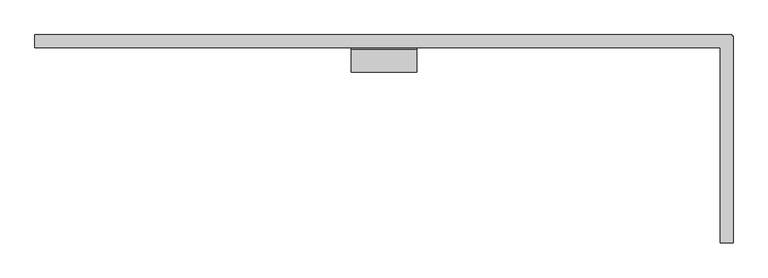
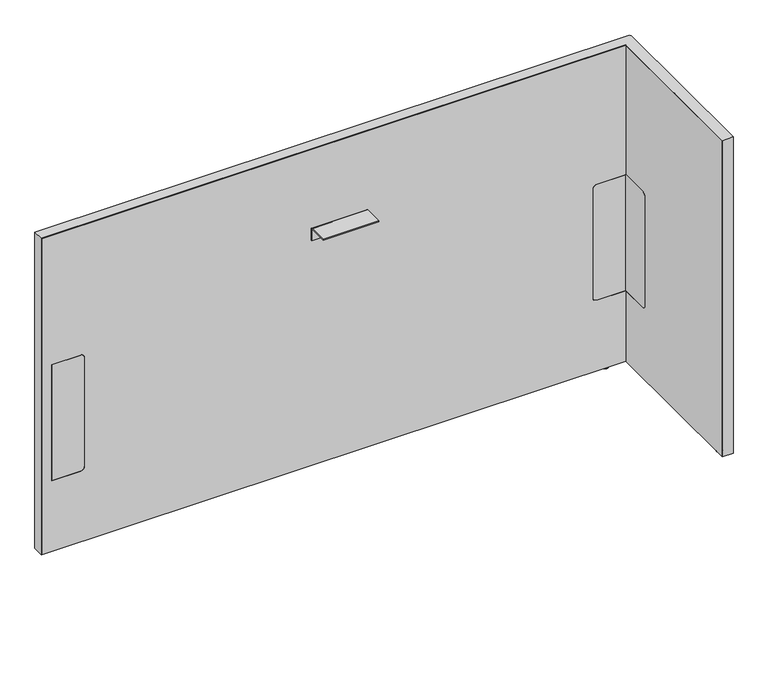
"""IFC4 building model written with IfcOpenShell, lengths in millimetres: furniture geometry, Steelcase - Answer Solution - Boundary Screen - L Return - Single Sided : 36H x 63W."""

from ifc_helpers import new_model, si_unit, point, frame, frame_2d, origin, place, context, project, spatial, polyline, circle_curve, ellipse_curve, trimmed, segment, composite_curve, outline, extrude, faceted_brep, source, transform, mapped, element, save
from ifc_brep_helpers import plane_surface, cylinder_surface, revolved_surface, advanced_brep


def furniture_2c3dba28(model_context):
    return source(origin(), model_context, "Body", "SolidModel", [
        extrude(outline(composite_curve([segment(polyline([(-109.3501471, 549.6162029), (-29.0550397, 549.6162029), (-29.0550397, 213.7762137), (-109.3501471, 213.7762137)]), True, "CONTINUOUS"), segment(trimmed(circle_curve(frame_2d((-109.3501471, 223.9362137)), 10.16), [point((-109.3501471, 213.7762137))], [point((-119.5101471, 223.9362137))], False, "CARTESIAN"), True, "CONTINUOUS"), segment(polyline([(-119.5101471, 223.9362137), (-119.5101471, 539.4562029)]), True, "CONTINUOUS"), segment(trimmed(circle_curve(frame_2d((-109.3501471, 539.4562029)), 10.16), [point((-119.5101471, 539.4562029))], [point((-109.3501471, 549.6162029))], False, "CARTESIAN"), True, "CONTINUOUS")], self_intersect=False)), frame((1830.0191891, 0.0, 0.0), z_axis=(1.0, 0.0, 0.0), x_axis=(0.0, 1.0, 0.0)), (0.0, 0.0, 1.0), 0.6401544),
        advanced_brep(
        [(1844.8672074, -448.0136072, 0.0), (1851.8216144, -448.0136072, 0.0), (1837.9128003, -448.0136072, 0.0), (1853.2762685, -448.0136072, 1.2700001), (1836.4581463, -448.0136072, 1.2700001), (1853.2762685, -448.0136072, 2.9673238), (1836.4581463, -448.0136072, 2.9673238), (1854.2427877, -448.0136072, 2.9673238), (1835.491627, -448.0136072, 2.9673238), (1854.2427877, -448.0136072, 9.9059849), (1835.491627, -448.0136072, 9.9059849), (1844.8672074, -448.0136072, 9.9059849)],
        [
            (0, 1),
            (1, 2, circle_curve(frame((1844.8672074, -448.0136072, 0.0), z_axis=(0.0, 0.0, -1.0), x_axis=(1.0, 0.0, 0.0)), 6.9544071)),
            (2, 0),
            (2, 1, circle_curve(frame((1844.8672074, -448.0136072, 0.0), z_axis=(0.0, 0.0, -1.0), x_axis=(1.0, 0.0, 0.0)), 6.9544071)),
            (1, 3, circle_curve(frame((1851.9945484, -448.0136072, 1.2700001), z_axis=(0.0, -1.0, 0.0), x_axis=(0.0, 0.0, 1.0)), 1.2817201)),
            (3, 4, circle_curve(frame((1844.8672074, -448.0136072, 1.2700001), z_axis=(0.0, 0.0, -1.0), x_axis=(1.0, 0.0, 0.0)), 8.4090611)),
            (4, 2, circle_curve(frame((1837.7398663, -448.0136072, 1.2700001), z_axis=(0.0, -1.0, 0.0), x_axis=(0.0, 0.0, 1.0)), 1.2817201)),
            (4, 3, circle_curve(frame((1844.8672074, -448.0136072, 1.2700001), z_axis=(0.0, 0.0, -1.0), x_axis=(1.0, 0.0, 0.0)), 8.4090611)),
            (3, 5),
            (5, 6, circle_curve(frame((1844.8672074, -448.0136072, 2.9673238), z_axis=(0.0, 0.0, -1.0), x_axis=(1.0, 0.0, 0.0)), 8.4090611)),
            (6, 4),
            (6, 5, circle_curve(frame((1844.8672074, -448.0136072, 2.9673238), z_axis=(0.0, 0.0, -1.0), x_axis=(1.0, 0.0, 0.0)), 8.4090611)),
            (5, 7),
            (7, 8, circle_curve(frame((1844.8672074, -448.0136072, 2.9673238), z_axis=(0.0, 0.0, -1.0), x_axis=(1.0, 0.0, 0.0)), 9.3755804)),
            (8, 6),
            (8, 7, circle_curve(frame((1844.8672074, -448.0136072, 2.9673238), z_axis=(0.0, 0.0, -1.0), x_axis=(1.0, 0.0, 0.0)), 9.3755804)),
            (7, 9),
            (9, 10, circle_curve(frame((1844.8672074, -448.0136072, 9.9059849), z_axis=(0.0, 0.0, -1.0), x_axis=(1.0, 0.0, 0.0)), 9.3755804)),
            (10, 8),
            (10, 9, circle_curve(frame((1844.8672074, -448.0136072, 9.9059849), z_axis=(0.0, 0.0, -1.0), x_axis=(1.0, 0.0, 0.0)), 9.3755804)),
            (9, 11),
            (11, 10),
        ],
        [
            plane_surface(frame((1844.8672074, -448.0136072, 0.0), z_axis=(0.0, 0.0, -1.0), x_axis=(1.0, 0.0, 0.0))),
            revolved_surface(trimmed(ellipse_curve(frame((1851.9945484, -448.0136072, 1.2700001), z_axis=(0.0, 1.0, 0.0), x_axis=(0.0, 0.0, 1.0)), 1.2817201, 1.2817201), [point((1853.2762685, -448.0136072, 1.2700001))], [point((1851.8216144, -448.0136072, 0.0))], True, "CARTESIAN"), (1844.8672074, -448.0136072, 9.9059849), (0.0, 0.0, -1.0)),
            cylinder_surface(frame((1844.8672074, -448.0136072, 9.9059849), z_axis=(0.0, 0.0, -1.0), x_axis=(1.0, 0.0, 0.0)), 8.4090611),
            plane_surface(frame((1844.8672074, -448.0136072, 2.9673238), z_axis=(0.0, 0.0, -1.0), x_axis=(1.0, 0.0, 0.0))),
            cylinder_surface(frame((1844.8672074, -448.0136072, 9.9059849), z_axis=(0.0, 0.0, -1.0), x_axis=(1.0, 0.0, 0.0)), 9.3755804),
            plane_surface(frame((1844.8672074, -448.0136072, 9.9059849), z_axis=(0.0, 0.0, 1.0), x_axis=(1.0, 0.0, 0.0))),
        ],
        [
            (0, [[1, 2, 3]]),
            (0, [[-3, 4, -1]]),
            (1, [[-2, 5, 6, 7]]),
            (1, [[-4, -7, 8, -5]]),
            (2, [[-6, 9, 10, 11]]),
            (2, [[-8, -11, 12, -9]]),
            (3, [[-10, 13, 14, 15]]),
            (3, [[-12, -15, 16, -13]]),
            (4, [[-14, 17, 18, 19]]),
            (4, [[-16, -19, 20, -17]]),
            (5, [[-18, 21, 22]]),
            (5, [[-20, -22, -21]]),
        ],
    ),
        faceted_brep([(1856.4531179, 0.0, 925.322), (1856.4531179, 0.0, 9.9059849), (1855.4621491, 0.0, 9.9059849), (1855.4621491, 0.0, 924.342118), (230.8097779, 0.0, 924.342118), (230.8097779, 0.0, 9.9059849), (229.8191891, 0.0, 9.9059849), (229.8191891, 0.0, 925.322), (229.8191891, -29.6898332, 925.322), (229.8191891, -29.6898332, 9.9059849), (230.8097779, -29.6898332, 9.9059849), (230.8097779, -29.6898332, 924.342118), (1830.0191891, -29.6898332, 924.342118), (1830.0191891, -29.6898332, 925.322), (1855.4621491, -29.6898332, 924.342118), (1855.4621491, -29.6898332, 9.9059849), (1856.4531179, -29.6898332, 9.9059849), (1856.4531179, -29.6898332, 924.342118), (1856.4531179, -3.2625916, 925.322), (1856.4531179, -3.2625916, 9.9059849), (1856.4531179, -4.252647, 9.9059849), (1856.4531179, -4.252647, 924.342118), (1859.7152256, -3.2625916, 9.9059849), (1859.7152256, -4.252647, 9.9059849), (1855.4621491, -4.252647, 9.9059849), (1830.0191891, -4.252647, 9.9059849), (1830.0191891, -3.2625916, 9.9059849), (1855.4621491, -3.2625916, 9.9059849), (1830.0191891, -486.8898332, 925.322), (1859.7152256, -486.8898332, 925.322), (1859.7152256, -3.2625916, 925.322), (1855.4621491, -3.2625916, 924.342118), (1855.4621491, -4.252647, 924.342118), (1830.0191891, -3.2625916, 924.342118), (1830.0191891, -4.252647, 924.342118), (1859.7152256, -4.252647, 924.342118), (1859.7152256, -485.899196, 924.342118), (1830.0191891, -485.899196, 924.342118), (1830.0191891, -485.899196, 9.9059849), (1830.0191891, -486.8898332, 9.9059849), (1859.7152256, -486.8898332, 9.9059849), (1859.7152256, -485.899196, 9.9059849)], [[[0, 1, 2, 3, 4, 5, 6, 7]], [[8, 9, 10, 11, 12, 13]], [[14, 15, 16, 17]], [[1, 0, 18, 19]], [[17, 16, 20, 21]], [[2, 1, 19, 22, 23, 20, 16, 15, 24, 25, 26, 27]], [[7, 6, 9, 8]], [[0, 7, 8, 13, 28, 29, 30, 18]], [[3, 2, 27, 31]], [[15, 14, 32, 24]], [[4, 3, 31, 33, 34, 32, 14, 17, 21, 35, 36, 37, 12, 11]], [[5, 4, 11, 10]], [[6, 5, 10, 9]], [[26, 25, 34, 33]], [[37, 38, 39, 28, 13, 12]], [[29, 40, 41, 36, 35, 23, 22, 30]], [[27, 26, 33, 31]], [[30, 22, 19, 18]], [[34, 25, 24, 32]], [[23, 35, 21, 20]], [[38, 37, 36, 41]], [[39, 38, 41, 40]], [[28, 39, 40, 29]]]),
        extrude(outline(composite_curve([segment(polyline([(-86.8398151, 696.4680019), (-86.8398151, 698.5), (-34.9450855, 698.5)]), True, "CONTINUOUS"), segment(trimmed(circle_curve(frame_2d((-34.9450855, 693.2447477)), 5.2552523), [point((-34.9450855, 698.5))], [point((-29.6898332, 693.2447477))], False, "CARTESIAN"), True, "CONTINUOUS"), segment(polyline([(-29.6898332, 693.2447477), (-29.6898332, 660.4), (-31.7218162, 660.4), (-31.7218162, 693.0058743)]), True, "CONTINUOUS"), segment(trimmed(circle_curve(frame_2d((-35.1839438, 693.0058743)), 3.4621276), [point((-31.7218162, 693.0058743))], [point((-35.1839438, 696.4680019))], True, "CARTESIAN"), True, "CONTINUOUS"), segment(polyline([(-35.1839438, 696.4680019), (-86.8398151, 696.4680019)]), True, "CONTINUOUS")], self_intersect=False)), frame((968.5685899, 0.0, 0.0), z_axis=(1.0, 0.0, 0.0), x_axis=(0.0, 1.0, 0.0)), (0.0, 0.0, 1.0), 152.4000969),
        advanced_brep(
        [(1782.5246853, -23.7588726, 9.9059849), (1782.5246853, -5.9309607, 9.9059849), (1782.5246853, -14.8449166, 9.9059849), (1782.5246853, -23.7588726, 2.9673238), (1782.5246853, -5.9309607, 2.9673238), (1782.5246853, -22.7915354, 2.9673238), (1782.5246853, -6.8982978, 2.9673238), (1782.5246853, -22.7915354, 1.6569081), (1782.5246853, -6.8982978, 1.6569081), (1782.5246853, -21.1346274, 0.0), (1782.5246853, -8.5552059, 0.0), (1782.5246853, -14.8449166, 0.0)],
        [
            (0, 1, circle_curve(frame((1782.5246853, -14.8449166, 9.9059849), z_axis=(0.0, 0.0, 1.0), x_axis=(0.0, 1.0, 0.0)), 8.913956)),
            (1, 2),
            (2, 0),
            (1, 0, circle_curve(frame((1782.5246853, -14.8449166, 9.9059849), z_axis=(0.0, 0.0, 1.0), x_axis=(0.0, 1.0, 0.0)), 8.913956)),
            (3, 4, circle_curve(frame((1782.5246853, -14.8449166, 2.9673238), z_axis=(0.0, 0.0, 1.0), x_axis=(0.0, 1.0, 0.0)), 8.913956)),
            (4, 1),
            (0, 3),
            (4, 3, circle_curve(frame((1782.5246853, -14.8449166, 2.9673238), z_axis=(0.0, 0.0, 1.0), x_axis=(0.0, 1.0, 0.0)), 8.913956)),
            (5, 6, circle_curve(frame((1782.5246853, -14.8449166, 2.9673238), z_axis=(0.0, 0.0, 1.0), x_axis=(0.0, 1.0, 0.0)), 7.9466188)),
            (6, 4),
            (3, 5),
            (6, 5, circle_curve(frame((1782.5246853, -14.8449166, 2.9673238), z_axis=(0.0, 0.0, 1.0), x_axis=(0.0, 1.0, 0.0)), 7.9466188)),
            (7, 8, circle_curve(frame((1782.5246853, -14.8449166, 1.6569081), z_axis=(0.0, 0.0, 1.0), x_axis=(0.0, 1.0, 0.0)), 7.9466188)),
            (8, 6),
            (5, 7),
            (8, 7, circle_curve(frame((1782.5246853, -14.8449166, 1.6569081), z_axis=(0.0, 0.0, 1.0), x_axis=(0.0, 1.0, 0.0)), 7.9466188)),
            (9, 10, circle_curve(frame((1782.5246853, -14.8449166, 0.0), z_axis=(0.0, 0.0, 1.0), x_axis=(0.0, 1.0, 0.0)), 6.2897107)),
            (10, 8, circle_curve(frame((1782.5246853, -8.5552059, 1.6569081), z_axis=(1.0, 0.0, 0.0), x_axis=(0.0, 1.0, 0.0)), 1.6569081)),
            (7, 9, circle_curve(frame((1782.5246853, -21.1346274, 1.6569081), z_axis=(1.0, 0.0, 0.0), x_axis=(0.0, -1.0, 0.0)), 1.6569081)),
            (10, 9, circle_curve(frame((1782.5246853, -14.8449166, 0.0), z_axis=(0.0, 0.0, 1.0), x_axis=(0.0, 1.0, 0.0)), 6.2897107)),
            (11, 10),
            (9, 11),
        ],
        [
            plane_surface(frame((1782.5246853, -14.8449166, 9.9059849), z_axis=(0.0, 0.0, 1.0), x_axis=(0.0, 1.0, 0.0))),
            cylinder_surface(frame((1782.5246853, -14.8449166, 9.9059849), z_axis=(0.0, 0.0, -1.0), x_axis=(0.0, 1.0, 0.0)), 8.913956),
            plane_surface(frame((1782.5246853, -14.8449166, 2.9673238), z_axis=(0.0, 0.0, -1.0), x_axis=(0.0, 1.0, 0.0))),
            cylinder_surface(frame((1782.5246853, -14.8449166, 9.9059849), z_axis=(0.0, 0.0, -1.0), x_axis=(0.0, 1.0, 0.0)), 7.9466188),
            revolved_surface(trimmed(ellipse_curve(frame((1782.5246853, -8.5552059, 1.6569081), z_axis=(-1.0, 0.0, 0.0), x_axis=(0.0, 1.0, 0.0)), 1.6569081, 1.6569081), [point((1782.5246853, -6.8982978, 1.6569081))], [point((1782.5246853, -8.5552059, 0.0))], True, "CARTESIAN"), (1782.5246853, -14.8449166, 9.9059849), (0.0, 0.0, -1.0)),
            plane_surface(frame((1782.5246853, -14.8449166, 0.0), z_axis=(0.0, 0.0, -1.0), x_axis=(0.0, 1.0, 0.0))),
        ],
        [
            (0, [[1, 2, 3]]),
            (0, [[4, -3, -2]]),
            (1, [[5, 6, -1, 7]]),
            (1, [[8, -7, -4, -6]]),
            (2, [[9, 10, -5, 11]]),
            (2, [[12, -11, -8, -10]]),
            (3, [[13, 14, -9, 15]]),
            (3, [[16, -15, -12, -14]]),
            (4, [[17, 18, -13, 19]]),
            (4, [[20, -19, -16, -18]]),
            (5, [[21, -17, 22]]),
            (5, [[-22, -20, -21]]),
        ],
    ),
        advanced_brep(
        [(230.8097779, 0.0, 924.342118), (1855.4621491, 0.0, 924.342118), (1855.4621491, 0.0, 9.9059849), (230.8097779, 0.0, 9.9059849), (347.9483813, -29.0550397, 539.4562029), (337.7883813, -29.0550397, 549.6162029), (258.1344836, -29.0550397, 549.6162029), (258.1344836, -29.0550397, 213.7762137), (337.7883813, -29.0550397, 213.7762137), (347.9483813, -29.0550397, 223.9362137), (1830.6593435, -29.0550397, 213.7762137), (1830.6593435, -29.0550397, 549.6162029), (1750.1109268, -29.0550397, 549.6162029), (1739.9509268, -29.0550397, 539.4562029), (1739.9509268, -29.0550397, 223.9362137), (1750.1109268, -29.0550397, 213.7762137), (230.8097779, -29.6898332, 924.342118), (230.8097779, -29.6898332, 9.9059849), (1830.0191891, -29.6898332, 9.9059849), (1830.0191891, -29.6898332, 213.7762137), (1750.1109268, -29.6898332, 213.7762137), (1739.9509268, -29.6898332, 223.9362137), (1739.9509268, -29.6898332, 539.4562029), (1750.1109268, -29.6898332, 549.6162029), (1830.0191891, -29.6898332, 549.6162029), (1830.0191891, -29.6898332, 924.342118), (337.7883813, -29.6898332, 549.6162029), (347.9483813, -29.6898332, 539.4562029), (347.9483813, -29.6898332, 223.9362137), (337.7883813, -29.6898332, 213.7762137), (258.1344836, -29.6898332, 213.7762137), (258.1344836, -29.6898332, 549.6162029), (1855.4621491, -4.252647, 9.9059849), (1859.7152256, -4.252647, 9.9059849), (1859.7152256, -485.899196, 9.9059849), (1830.0191891, -485.899196, 9.9059849), (1855.4621491, -4.252647, 924.342118), (1830.0191891, -485.899196, 924.342118), (1859.7152256, -485.899196, 924.342118), (1859.7152256, -4.252647, 924.342118), (1830.6593435, -109.3501471, 549.6162029), (1830.0191891, -109.3501471, 549.6162029), (1830.6593435, -109.3501471, 213.7762137), (1830.6593435, -119.5101471, 223.9362137), (1830.6593435, -119.5101471, 539.4562029), (1830.0191891, -109.3501471, 213.7762137), (1830.0191891, -119.5101471, 539.4562029), (1830.0191891, -119.5101471, 223.9362137)],
        [
            (0, 1),
            (1, 2),
            (2, 3),
            (3, 0),
            (4, 5, circle_curve(frame((337.7883813, -29.0550397, 539.4562029), z_axis=(0.0, -1.0, 0.0), x_axis=(0.0, 0.0, 1.0)), 10.16)),
            (5, 6),
            (6, 7),
            (7, 8),
            (8, 9, circle_curve(frame((337.7883813, -29.0550397, 223.9362137), z_axis=(0.0, -1.0, 0.0), x_axis=(0.0, 0.0, 1.0)), 10.16)),
            (9, 4),
            (10, 11),
            (11, 12),
            (12, 13, circle_curve(frame((1750.1109268, -29.0550397, 539.4562029), z_axis=(0.0, -1.0, 0.0), x_axis=(0.0, 0.0, 1.0)), 10.16)),
            (13, 14),
            (14, 15, circle_curve(frame((1750.1109268, -29.0550397, 223.9362137), z_axis=(0.0, -1.0, 0.0), x_axis=(0.0, 0.0, 1.0)), 10.16)),
            (15, 10),
            (16, 17),
            (17, 18),
            (18, 19),
            (19, 20),
            (20, 21, circle_curve(frame((1750.1109268, -29.6898332, 223.9362137), z_axis=(0.0, 1.0, 0.0), x_axis=(0.0, 0.0, 1.0)), 10.16)),
            (21, 22),
            (22, 23, circle_curve(frame((1750.1109268, -29.6898332, 539.4562029), z_axis=(0.0, 1.0, 0.0), x_axis=(0.0, 0.0, 1.0)), 10.16)),
            (23, 24),
            (24, 25),
            (25, 16),
            (26, 27, circle_curve(frame((337.7883813, -29.6898332, 539.4562029), z_axis=(0.0, 1.0, 0.0), x_axis=(0.0, 0.0, 1.0)), 10.16)),
            (27, 28),
            (28, 29, circle_curve(frame((337.7883813, -29.6898332, 223.9362137), z_axis=(0.0, 1.0, 0.0), x_axis=(0.0, 0.0, 1.0)), 10.16)),
            (29, 30),
            (30, 31),
            (31, 26),
            (16, 0),
            (3, 17),
            (2, 32),
            (32, 33),
            (33, 34),
            (34, 35),
            (35, 18),
            (1, 36),
            (36, 32),
            (25, 37),
            (37, 38),
            (38, 39),
            (39, 36),
            (26, 5),
            (4, 27),
            (9, 28),
            (8, 29),
            (7, 30),
            (6, 31),
            (11, 40),
            (40, 41),
            (41, 24),
            (23, 12),
            (42, 43, circle_curve(frame((1830.6593435, -109.3501471, 223.9362137), z_axis=(-1.0, 0.0, 0.0), x_axis=(0.0, 1.0, 0.0)), 10.16)),
            (43, 44),
            (44, 40, circle_curve(frame((1830.6593435, -109.3501471, 539.4562029), z_axis=(-1.0, 0.0, 0.0), x_axis=(0.0, 1.0, 0.0)), 10.16)),
            (10, 42),
            (15, 20),
            (19, 45),
            (45, 42),
            (14, 21),
            (13, 22),
            (35, 37),
            (41, 46, circle_curve(frame((1830.0191891, -109.3501471, 539.4562029), z_axis=(1.0, 0.0, 0.0), x_axis=(0.0, 1.0, 0.0)), 10.16)),
            (46, 47),
            (47, 45, circle_curve(frame((1830.0191891, -109.3501471, 223.9362137), z_axis=(1.0, 0.0, 0.0), x_axis=(0.0, 1.0, 0.0)), 10.16)),
            (38, 34),
            (33, 39),
            (44, 46),
            (43, 47),
        ],
        [
            plane_surface(frame((347.9483813, 0.0, 549.6162029), z_axis=(0.0, 1.0, 0.0), x_axis=(0.0, 0.0, -1.0))),
            plane_surface(frame((347.9483813, -29.0550397, 549.6162029), z_axis=(0.0, -1.0, 0.0), x_axis=(0.0, 0.0, 1.0))),
            plane_surface(frame((1855.4621491, -29.6898332, 924.342118), z_axis=(0.0, -1.0, 0.0), x_axis=(-1.0, 0.0, 0.0))),
            plane_surface(frame((230.8097779, 0.0, 9.9059849), z_axis=(-1.0, 0.0, 0.0), x_axis=(0.0, -1.0, 0.0))),
            plane_surface(frame((1855.4621491, 0.0, 9.9059849), z_axis=(0.0, 0.0, -1.0), x_axis=(0.0, -1.0, 0.0))),
            plane_surface(frame((1855.4621491, 0.0, 924.342118), z_axis=(1.0, 0.0, 0.0), x_axis=(0.0, -1.0, 0.0))),
            plane_surface(frame((230.8097779, 0.0, 924.342118), z_axis=(0.0, 0.0, 1.0), x_axis=(0.0, -1.0, 0.0))),
            revolved_surface(polyline([(337.7883813, -29.6898332, 549.6162029), (337.7883813, -29.0550397, 549.6162029)]), (337.7883813, -29.6898332, 539.4562029), (0.0, -1.0, 0.0)),
            plane_surface(frame((347.9483813, 0.0, 223.9362137), z_axis=(-1.0, 0.0, 0.0), x_axis=(0.0, -1.0, 0.0))),
            revolved_surface(polyline([(337.7883813, -29.6898332, 234.0962137), (337.7883813, -29.0550397, 234.0962137)]), (337.7883813, -29.6898332, 223.9362137), (0.0, -1.0, 0.0)),
            plane_surface(frame((258.1344836, 0.0, 213.7762137), z_axis=(0.0, 0.0, 1.0), x_axis=(0.0, -1.0, 0.0))),
            plane_surface(frame((258.1344836, 0.0, 549.6162029), z_axis=(1.0, 0.0, 0.0), x_axis=(0.0, -1.0, 0.0))),
            plane_surface(frame((337.7883813, 0.0, 549.6162029), z_axis=(0.0, 0.0, -1.0), x_axis=(0.0, -1.0, 0.0))),
            plane_surface(frame((1830.6593435, 0.0, 549.6162029), z_axis=(0.0, 0.0, -1.0), x_axis=(0.0, -1.0, 0.0))),
            plane_surface(frame((1830.6593435, 0.0, 213.7762137), z_axis=(-1.0, 0.0, 0.0), x_axis=(0.0, -1.0, 0.0))),
            plane_surface(frame((1750.1109268, 0.0, 213.7762137), z_axis=(0.0, 0.0, 1.0), x_axis=(0.0, -1.0, 0.0))),
            revolved_surface(polyline([(1750.1109268, -29.6898332, 234.0962137), (1750.1109268, -29.0550397, 234.0962137)]), (1750.1109268, -29.6898332, 223.9362137), (0.0, -1.0, 0.0)),
            plane_surface(frame((1739.9509268, 0.0, 539.4562029), z_axis=(1.0, 0.0, 0.0), x_axis=(0.0, -1.0, 0.0))),
            revolved_surface(polyline([(1750.1109268, -29.6898332, 549.6162029), (1750.1109268, -29.0550397, 549.6162029)]), (1750.1109268, -29.6898332, 539.4562029), (0.0, -1.0, 0.0)),
            plane_surface(frame((1830.0191891, -485.899196, 924.342118), z_axis=(-1.0, 0.0, 0.0), x_axis=(0.0, 0.0, 1.0))),
            plane_surface(frame((1859.7152256, -485.899196, 924.342118), z_axis=(1.0, 0.0, 0.0), x_axis=(0.0, 0.0, -1.0))),
            plane_surface(frame((1859.7152256, -4.252647, 9.9059849), z_axis=(0.0, 1.0, 0.0), x_axis=(-1.0, 0.0, 0.0))),
            plane_surface(frame((1859.7152256, -485.899196, 924.342118), z_axis=(0.0, -1.0, 0.0), x_axis=(-1.0, 0.0, 0.0))),
            revolved_surface(polyline([(1830.0191890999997, -99.1901471, 539.4562029), (1830.6593434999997, -99.1901471, 539.4562029)]), (-340.6902705, -109.3501471, 539.4562029), (-1.0, 0.0, 0.0)),
            plane_surface(frame((1859.7152256, -119.5101471, 223.9362137), z_axis=(0.0, 1.0, 0.0), x_axis=(-1.0, 0.0, 0.0))),
            revolved_surface(polyline([(1830.0191890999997, -99.1901471, 223.9362137), (1830.6593434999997, -99.1901471, 223.9362137)]), (-340.6902705, -109.3501471, 223.9362137), (-1.0, 0.0, 0.0)),
        ],
        [
            (0, [[1, 2, 3, 4]]),
            (1, [[5, 6, 7, 8, 9, 10]]),
            (1, [[11, 12, 13, 14, 15, 16]]),
            (2, [[17, 18, 19, 20, 21, 22, 23, 24, 25, 26], [27, 28, 29, 30, 31, 32]]),
            (3, [[-17, 33, -4, 34]]),
            (4, [[-3, 35, 36, 37, 38, 39, -18, -34]]),
            (5, [[-2, 40, 41, -35]]),
            (6, [[-1, -33, -26, 42, 43, 44, 45, -40]]),
            (7, [[-27, 46, -5, 47]]),
            (8, [[-28, -47, -10, 48]]),
            (9, [[-29, -48, -9, 49]]),
            (10, [[-30, -49, -8, 50]]),
            (11, [[-31, -50, -7, 51]]),
            (12, [[-32, -51, -6, -46]]),
            (13, [[52, 53, 54, -24, 55, -12]]),
            (14, [[56, 57, 58, -52, -11, 59]]),
            (15, [[-59, -16, 60, -20, 61, 62]]),
            (16, [[-21, -60, -15, 63]]),
            (17, [[-22, -63, -14, 64]]),
            (18, [[-23, -64, -13, -55]]),
            (19, [[65, -42, -25, -54, 66, 67, 68, -61, -19, -39]]),
            (20, [[69, -37, 70, -44]]),
            (21, [[-70, -36, -41, -45]]),
            (22, [[-65, -38, -69, -43]]),
            (23, [[-66, -53, -58, 71]]),
            (24, [[-67, -71, -57, 72]]),
            (25, [[-68, -72, -56, -62]]),
        ],
    ),
        extrude(outline(composite_curve([segment(polyline([(549.6162029, 337.7883813), (549.6162029, 258.1344836), (213.7762137, 258.1344836), (213.7762137, 337.7883813)]), True, "CONTINUOUS"), segment(trimmed(circle_curve(frame_2d((223.9362137, 337.7883813)), 10.16), [point((213.7762137, 337.7883813))], [point((223.9362137, 347.9483813))], False, "CARTESIAN"), True, "CONTINUOUS"), segment(polyline([(223.9362137, 347.9483813), (539.4562029, 347.9483813)]), True, "CONTINUOUS"), segment(trimmed(circle_curve(frame_2d((539.4562029, 337.7883813)), 10.16), [point((539.4562029, 347.9483813))], [point((549.6162029, 337.7883813))], False, "CARTESIAN"), True, "CONTINUOUS")], self_intersect=False)), frame((0.0, -29.6898332, 0.0), z_axis=(0.0, 1.0, 0.0), x_axis=(0.0, 0.0, 1.0)), (0.0, 0.0, 1.0), 0.6347935),
        extrude(outline(composite_curve([segment(trimmed(circle_curve(frame_2d((539.4562029, 1750.1109268)), 10.16), [point((549.6162029, 1750.1109268))], [point((539.4562029, 1739.9509268))], False, "CARTESIAN"), True, "CONTINUOUS"), segment(polyline([(539.4562029, 1739.9509268), (223.9362137, 1739.9509268)]), True, "CONTINUOUS"), segment(trimmed(circle_curve(frame_2d((223.9362137, 1750.1109268)), 10.16), [point((223.9362137, 1739.9509268))], [point((213.7762137, 1750.1109268))], False, "CARTESIAN"), True, "CONTINUOUS"), segment(polyline([(213.7762137, 1750.1109268), (213.7762137, 1830.0191891), (549.6162029, 1830.0191891), (549.6162029, 1750.1109268)]), True, "CONTINUOUS")], self_intersect=False)), frame((0.0, -29.6898332, 0.0), z_axis=(0.0, 1.0, 0.0), x_axis=(0.0, 0.0, 1.0)), (0.0, 0.0, 1.0), 0.6347935),
    ])


if __name__ == "__main__":
    model = new_model("IFC4")
    model_context = context("Model", 3, world=origin())
    ifc_project = project(units=[si_unit("LENGTHUNIT", "METRE", prefix="MILLI")], contexts=[model_context])
    site = spatial("IfcSite", under=ifc_project)
    building = spatial("IfcBuilding", under=site)
    placement = place(None, origin())
    furniture_shape = furniture_2c3dba28(model_context)
    element("IfcFurniture", 1, ObjectType="Steelcase - Answer Solution - Boundary Screen - L Return - Single Sided : 36H x 63W", at=placement, inside=building, context=model_context, shape_type="MappedRepresentation", body=[
        mapped(furniture_shape, transform((0.0, 0.0, 0.0), x_axis=(1.0, 0.0, 0.0), y_axis=(0.0, 1.0, 0.0), z_axis=(0.0, 0.0, 1.0))),
    ])
    save(model, "model.ifc")
